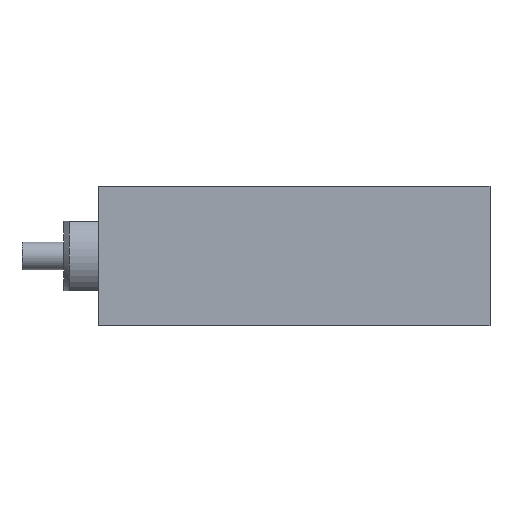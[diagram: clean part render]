
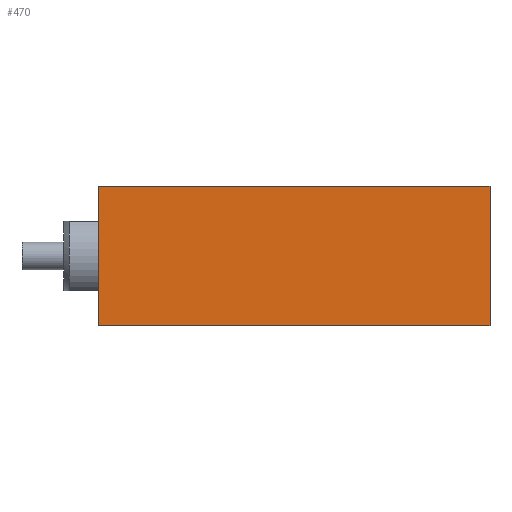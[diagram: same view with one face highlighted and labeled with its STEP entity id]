
A CAD part, front view. The second image highlights one B-rep face of the part: STEP entity #470.
In plain terms, the highlighted planar face has unit normal (0, -1, 0).
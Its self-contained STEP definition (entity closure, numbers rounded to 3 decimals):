
#37 = CARTESIAN_POINT ( 'NONE',  ( 28., -7.5, 5. ) ) ;
#91 = VERTEX_POINT ( 'NONE', #568 ) ;
#137 = FACE_OUTER_BOUND ( 'NONE', #1437, .T. ) ;
#160 = DIRECTION ( 'NONE',  ( 0., -1., 0. ) ) ;
#183 = EDGE_CURVE ( 'NONE', #1005, #922, #1950, .T. ) ;
#206 = EDGE_CURVE ( 'NONE', #91, #922, #1233, .T. ) ;
#341 = PLANE ( 'NONE',  #2252 ) ;
#470 = ADVANCED_FACE ( 'NONE', ( #137 ), #341, .T. ) ;
#480 = EDGE_CURVE ( 'NONE', #843, #1005, #1885, .T. ) ;
#528 = CARTESIAN_POINT ( 'NONE',  ( 0., -7.5, 5. ) ) ;
#568 = CARTESIAN_POINT ( 'NONE',  ( 28., -7.5, 5. ) ) ;
#641 = ORIENTED_EDGE ( 'NONE', *, *, #2453, .T. ) ;
#750 = VECTOR ( 'NONE', #2529, 1000. ) ;
#843 = VERTEX_POINT ( 'NONE', #1411 ) ;
#922 = VERTEX_POINT ( 'NONE', #528 ) ;
#1005 = VERTEX_POINT ( 'NONE', #1108 ) ;
#1021 = LINE ( 'NONE', #1568, #2007 ) ;
#1025 = ORIENTED_EDGE ( 'NONE', *, *, #206, .T. ) ;
#1108 = CARTESIAN_POINT ( 'NONE',  ( 0., -7.5, -5. ) ) ;
#1110 = DIRECTION ( 'NONE',  ( 1., 0., 0. ) ) ;
#1135 = VECTOR ( 'NONE', #1494, 1000. ) ;
#1233 = LINE ( 'NONE', #37, #1724 ) ;
#1304 = CARTESIAN_POINT ( 'NONE',  ( 28., -7.5, -5. ) ) ;
#1406 = ORIENTED_EDGE ( 'NONE', *, *, #480, .F. ) ;
#1411 = CARTESIAN_POINT ( 'NONE',  ( 28., -7.5, -5. ) ) ;
#1437 = EDGE_LOOP ( 'NONE', ( #1927, #1406, #641, #1025 ) ) ;
#1494 = DIRECTION ( 'NONE',  ( -1., 0., 0. ) ) ;
#1517 = CARTESIAN_POINT ( 'NONE',  ( 28., -7.5, -5. ) ) ;
#1568 = CARTESIAN_POINT ( 'NONE',  ( 28., -7.5, -5. ) ) ;
#1724 = VECTOR ( 'NONE', #1770, 1000. ) ;
#1770 = DIRECTION ( 'NONE',  ( -1., 0., 0. ) ) ;
#1885 = LINE ( 'NONE', #1304, #1135 ) ;
#1927 = ORIENTED_EDGE ( 'NONE', *, *, #183, .F. ) ;
#1938 = CARTESIAN_POINT ( 'NONE',  ( 0., -7.5, -5. ) ) ;
#1950 = LINE ( 'NONE', #1938, #750 ) ;
#2007 = VECTOR ( 'NONE', #2536, 1000. ) ;
#2252 = AXIS2_PLACEMENT_3D ( 'NONE', #1517, #160, #1110 ) ;
#2453 = EDGE_CURVE ( 'NONE', #843, #91, #1021, .T. ) ;
#2529 = DIRECTION ( 'NONE',  ( 0., 0., 1. ) ) ;
#2536 = DIRECTION ( 'NONE',  ( 0., 0., 1. ) ) ;
